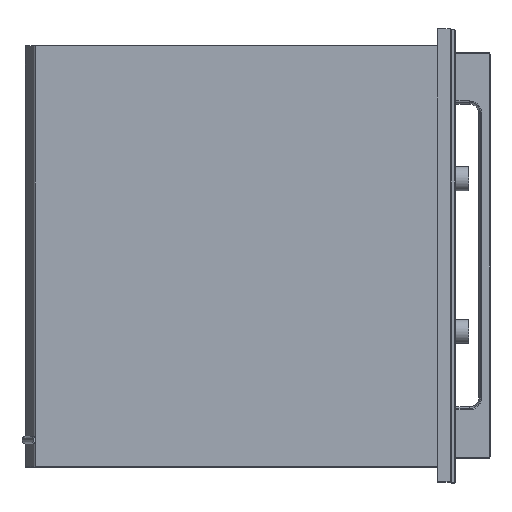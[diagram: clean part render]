
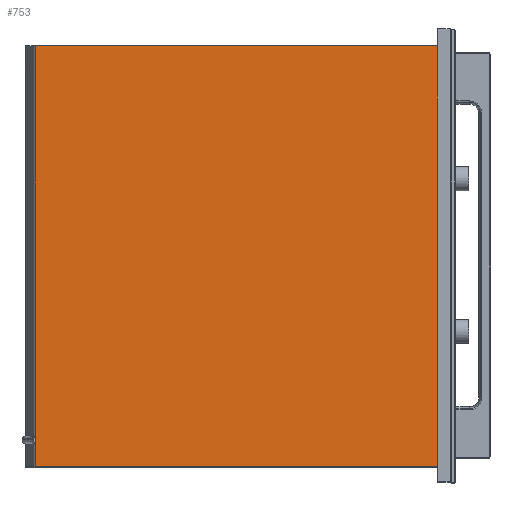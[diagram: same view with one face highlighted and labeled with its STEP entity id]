
A CAD part, top view. The second image highlights one B-rep face of the part: STEP entity #753.
In plain terms, the highlighted free-form (B-spline) face has degree [1, 1] with [2, 2] control points.
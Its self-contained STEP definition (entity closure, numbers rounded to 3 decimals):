
#753=ADVANCED_FACE('',(#974),#2831,.T.);
#974=FACE_OUTER_BOUND('',#1197,.T.);
#1197=EDGE_LOOP('',(#1593,#1594,#1595,#1596));
#1593=ORIENTED_EDGE('',*,*,#2250,.T.);
#1594=ORIENTED_EDGE('',*,*,#2254,.T.);
#1595=ORIENTED_EDGE('',*,*,#2255,.F.);
#1596=ORIENTED_EDGE('',*,*,#2231,.F.);
#2231=EDGE_CURVE('',#2586,#2587,#2953,.T.);
#2250=EDGE_CURVE('',#2586,#2602,#2972,.T.);
#2254=EDGE_CURVE('',#2602,#2604,#2976,.T.);
#2255=EDGE_CURVE('',#2587,#2604,#2977,.T.);
#2586=VERTEX_POINT('',#54047);
#2587=VERTEX_POINT('',#54048);
#2602=VERTEX_POINT('',#54063);
#2604=VERTEX_POINT('',#54065);
#2831=B_SPLINE_SURFACE_WITH_KNOTS('',1,1,((#54002,#54003),(#54004,#54005)),
.UNSPECIFIED.,.F.,.F.,.F.,(2,2),(2,2),(0.,1.),(0.,1.),.UNSPECIFIED.);
#2953=B_SPLINE_CURVE_WITH_KNOTS('',1,(#53880,#53881),.UNSPECIFIED.,.F.,.F.,
(2,2),(0.,1.),.UNSPECIFIED.);
#2972=B_SPLINE_CURVE_WITH_KNOTS('',1,(#53926,#53927),.UNSPECIFIED.,.F.,.F.,
(2,2),(0.,1.),.UNSPECIFIED.);
#2976=B_SPLINE_CURVE_WITH_KNOTS('',1,(#53934,#53935),.UNSPECIFIED.,.F.,.F.,
(2,2),(0.,1.),.UNSPECIFIED.);
#2977=B_SPLINE_CURVE_WITH_KNOTS('',1,(#53936,#53937),.UNSPECIFIED.,.F.,.F.,
(2,2),(0.,1.),.UNSPECIFIED.);
#53880=CARTESIAN_POINT('',(0.012,276.5,444.076));
#53881=CARTESIAN_POINT('',(0.012,-276.5,444.076));
#53926=CARTESIAN_POINT('',(0.012,276.5,444.076));
#53927=CARTESIAN_POINT('',(-528.943,276.5,444.076));
#53934=CARTESIAN_POINT('',(-528.943,276.5,444.076));
#53935=CARTESIAN_POINT('',(-528.943,-276.5,444.076));
#53936=CARTESIAN_POINT('',(0.012,-276.5,444.076));
#53937=CARTESIAN_POINT('',(-528.943,-276.5,444.076));
#54002=CARTESIAN_POINT('',(0.012,276.5,444.076));
#54003=CARTESIAN_POINT('',(0.012,-276.5,444.076));
#54004=CARTESIAN_POINT('',(-528.943,276.5,444.076));
#54005=CARTESIAN_POINT('',(-528.943,-276.5,444.076));
#54047=CARTESIAN_POINT('',(0.012,276.5,444.076));
#54048=CARTESIAN_POINT('',(0.012,-276.5,444.076));
#54063=CARTESIAN_POINT('',(-528.943,276.5,444.076));
#54065=CARTESIAN_POINT('',(-528.943,-276.5,444.076));
